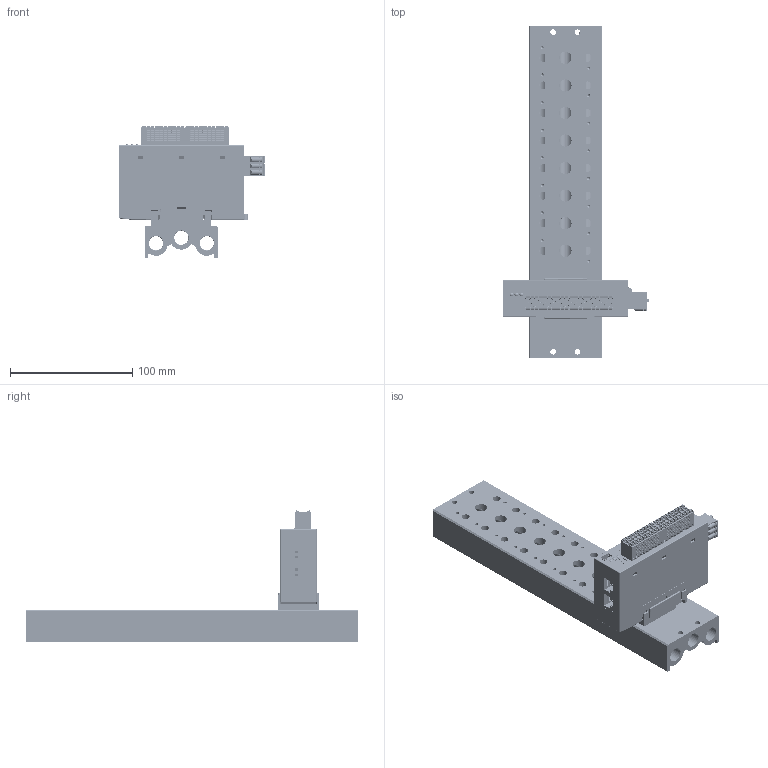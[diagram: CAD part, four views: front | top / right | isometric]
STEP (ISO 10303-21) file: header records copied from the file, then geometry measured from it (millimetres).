
FILE_DESCRIPTION(/* description */ (''),/* implementation_level */ '2;1');
FILE_NAME(/* name */ '',/* time_stamp */ '2025-10-09T16:06:42+08:00',/* author */ (''),/* organization */ (''),/* preprocessor_version */ 'ST-DEVELOPER v14',/* originating_system */ 'SIEMENS PLM Software NX 8.0',/* authorisation */ '');
FILE_SCHEMA (('AP203_CONFIGURATION_CONTROLLED_3D_DESIGN_OF_MECHANICAL_PARTS_AND_ASSEMBLIES_MIM_LF { 1 0 10303 403 2 1 2}'));
Products named in the file (1): DELL3E5857E9ucf1
Bounding box: 119.8 x 271 x 108.48 mm (x, y, z)
Volume: 447022.9 mm3; surface area: 143648.7 mm2
Topology: 2 solids, 227 shells, 9927 faces, 26303 edges, 17124 vertices
Faces by surface type: plane 6472, cylinder 2277, bspline 342, torus 336, cone 222, extrusion 183, sphere 95
Full cylindrical faces by diameter (mm): 0.18 x2, 2.5 x21, 3.05 x40, 3.3 x3, 3.5 x4, 4 x4, 4.5 x4, 6 x4, 6.5 x16, 9.6 x1, 10 x8, 11.5 x5, 11.8 x6
Entity records: 328101 total; most frequent: CARTESIAN_POINT 84229, ORIENTED_EDGE 51484, DIRECTION 48487, EDGE_CURVE 25742, VECTOR 18337, LINE 18154, VERTEX_POINT 16978, AXIS2_PLACEMENT_3D 15075
